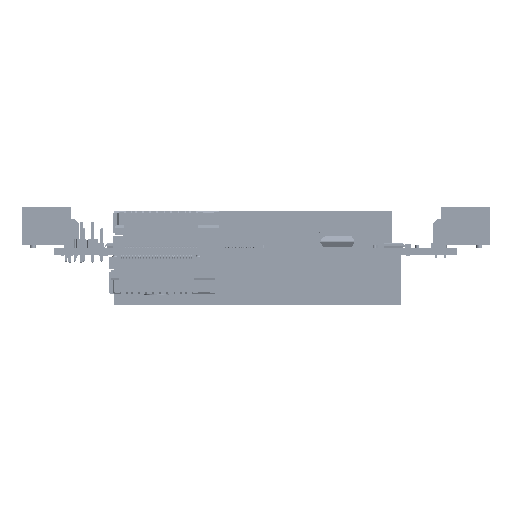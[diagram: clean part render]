
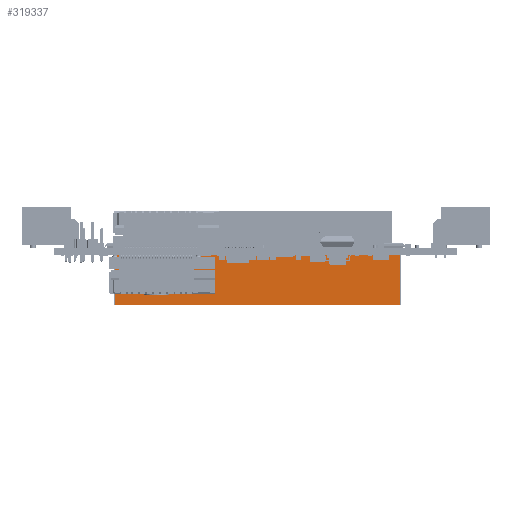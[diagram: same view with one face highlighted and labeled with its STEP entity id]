
A CAD part, front view. The second image highlights one B-rep face of the part: STEP entity #319337.
In plain terms, the highlighted planar face has unit normal (0, -1, 0) as drawn and (0, 0, -1) by its records, which use the part's own axes.
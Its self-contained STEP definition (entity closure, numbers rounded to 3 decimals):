
#284090=DIRECTION('',(0.,-1.,0.));
#284091=VECTOR('',#284090,11.2);
#284092=CARTESIAN_POINT('',(31.93,0.,-5.715));
#284093=LINE('',#284092,#284091);
#284094=DIRECTION('',(-1.,0.,0.));
#284095=VECTOR('',#284094,63.86);
#284096=CARTESIAN_POINT('',(31.93,0.,-5.715));
#284097=LINE('',#284096,#284095);
#284106=DIRECTION('',(0.,1.,0.));
#284107=VECTOR('',#284106,11.2);
#284108=CARTESIAN_POINT('',(-31.93,-11.2,-5.715));
#284109=LINE('',#284108,#284107);
#284182=DIRECTION('',(-1.,0.,0.));
#284183=VECTOR('',#284182,63.86);
#284184=CARTESIAN_POINT('',(31.93,-11.2,-5.715));
#284185=LINE('',#284184,#284183);
#311943=CARTESIAN_POINT('',(31.93,0.,-5.715));
#311945=VERTEX_POINT('',#311943);
#311964=CARTESIAN_POINT('',(-31.93,0.,-5.715));
#311965=VERTEX_POINT('',#311964);
#312090=CARTESIAN_POINT('',(31.93,-11.2,-5.715));
#312091=VERTEX_POINT('',#312090);
#312094=CARTESIAN_POINT('',(-31.93,-11.2,-5.715));
#312095=VERTEX_POINT('',#312094);
#319324=CARTESIAN_POINT('',(0.,-5.6,-5.715));
#319325=DIRECTION('',(0.,0.,1.));
#319326=DIRECTION('',(-1.,0.,0.));
#319327=AXIS2_PLACEMENT_3D('',#319324,#319325,#319326);
#319328=PLANE('',#319327);
#319329=ORIENTED_EDGE('',*,*,#319144,.T.);
#319331=ORIENTED_EDGE('',*,*,#319330,.F.);
#319333=ORIENTED_EDGE('',*,*,#319332,.F.);
#319334=ORIENTED_EDGE('',*,*,#319315,.F.);
#319335=EDGE_LOOP('',(#319329,#319331,#319333,#319334));
#319336=FACE_OUTER_BOUND('',#319335,.F.);
#319144=EDGE_CURVE('',#311945,#311965,#284097,.T.);
#319315=EDGE_CURVE('',#311945,#312091,#284093,.T.);
#319330=EDGE_CURVE('',#312095,#311965,#284109,.T.);
#319332=EDGE_CURVE('',#312091,#312095,#284185,.T.);
#319337=ADVANCED_FACE('',(#319336),#319328,.F.);
